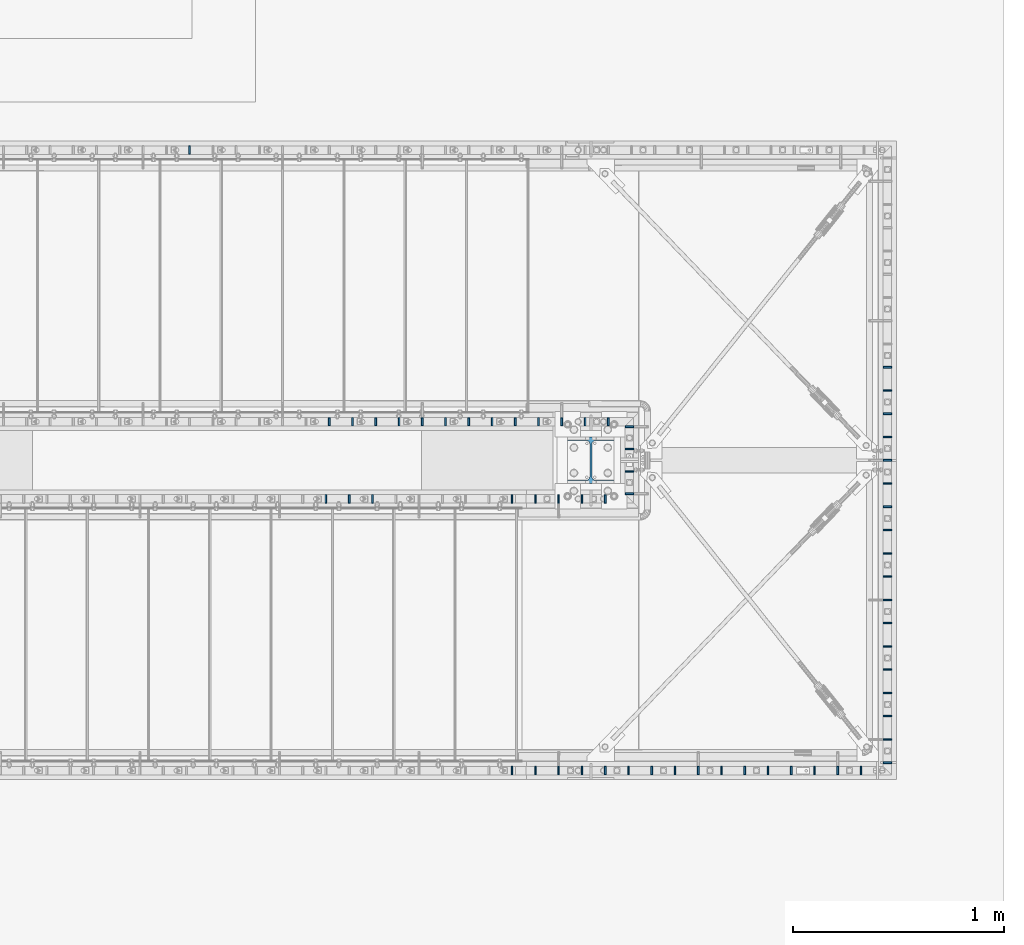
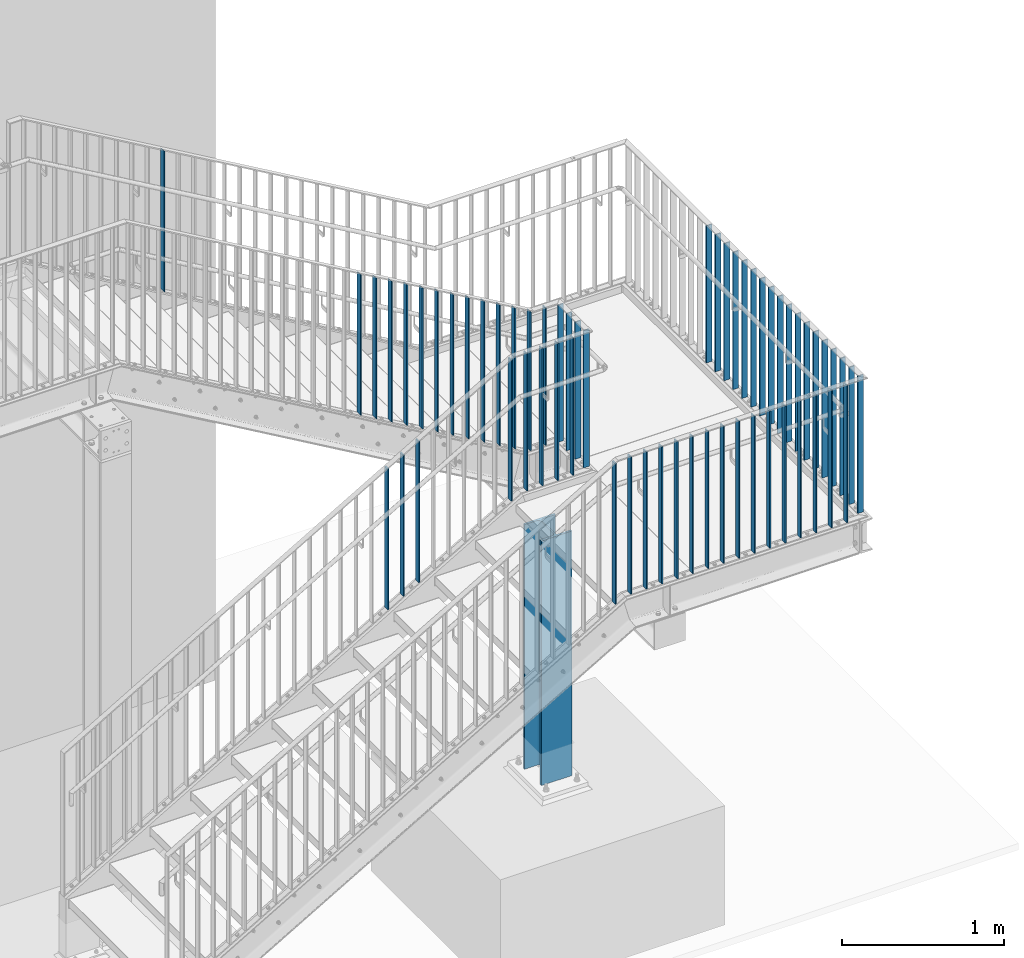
# One storey, part 3 of 145: 61 columns.
"""IFC2X3 building model written with IfcOpenShell, lengths in millimetres."""

from ifc_helpers import new_model, entity, si_unit, converted_unit, frame, origin, origin_with_axes, origin_2d, place, context, project, spatial, rectangle, i_section, extrude, clip, halfspace, material, element, save


model = new_model("IFC2X3")

# Units and contexts
model_context = context("Model", 3, precision=1e-09, world=origin_with_axes())
ifc_project = project(units=[si_unit("LENGTHUNIT", "METRE", prefix="MILLI"), si_unit("AREAUNIT", "SQUARE_METRE"), si_unit("VOLUMEUNIT", "CUBIC_METRE"), converted_unit("PLANEANGLEUNIT", "DEGREE", entity("IfcPlaneAngleMeasure", 0.01745329), si_unit("PLANEANGLEUNIT", "RADIAN"), dimensions=[0, 0, 0, 0, 0, 0, 0])], contexts=[model_context])

# Site, building, storey
site_placement = place(None, origin_with_axes())
site = spatial("IfcSite", under=ifc_project, at=site_placement, Name="BZ1 Grund- und Mittelschule 85716 Unterschlei?heim", CompositionType="ELEMENT")
building_placement = place(site_placement, origin_with_axes())
building = spatial("IfcBuilding", under=site, at=building_placement, Name="Struktur 1", CompositionType="ELEMENT")
storey_placement = place(building_placement, origin_with_axes())
storey = spatial("IfcBuildingStorey", under=building, at=storey_placement, Name="Default Storey", CompositionType="ELEMENT", Elevation=0.0)

# Columns
ifc_material = material(Name="S235JR")
column_1_placement = place(None, frame((20293.141490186, -1512.502, 1621.636364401), z_axis=(0.0, 0.0, 1.0), x_axis=(-1.0, 0.0, 0.0)))
element("IfcColumn", 1, at=column_1_placement, inside=storey, material=ifc_material, Name="-", ObjectType="-", context=model_context, shape_type="SweptSolid", body=[
    extrude(rectangle(XDim=8.0, YDim=40.0, at=origin_2d()), origin(), (0.0, 0.0, 1.0), 1033.999999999),
])
for number, where, z_axis, x_axis in (
    (2, (21613.34472732, -1365.002, 1621.636364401), (0.0, 0.0, -1.0), (0.0, 1.0, 0.0)),
    (3, (21613.34472732, -1475.002, 1621.636364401), (0.0, 0.0, -1.0), (0.0, 1.0, 0.0)),
    (4, (21613.34472732, -1585.002, 1621.636364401), (0.0, 0.0, -1.0), (0.0, 1.0, 0.0)),
    (5, (21613.34472732, -1695.002, 1621.636364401), (0.0, 0.0, -1.0), (0.0, 1.0, 0.0)),
    (6, (21613.34472732, -1805.002, 1621.636364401), (0.0, 0.0, -1.0), (0.0, 1.0, 0.0)),
    (7, (21613.34472732, -1915.002, 1621.636364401), (0.0, 0.0, -1.0), (0.0, 1.0, 0.0)),
    (8, (21613.34472732, -2025.002, 1621.636364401), (0.0, 0.0, -1.0), (0.0, 1.0, 0.0)),
    (9, (21613.34472732, -2135.002, 1621.636364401), (0.0, 0.0, -1.0), (0.0, 1.0, 0.0)),
    (10, (20393.34472732, -1642.16866666, 1621.636364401), (0.0, 0.0, -1.0), (0.0, -1.0, 0.0)),
    (11, (20393.34472732, -1536.502, 1621.636364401), (0.0, 0.0, -1.0), (0.0, -1.0, 0.0)),
):
    element("IfcColumn", number, at=place(None, frame(where, z_axis=z_axis, x_axis=x_axis)), inside=storey, material=ifc_material, Name="-", ObjectType="-", context=model_context, shape_type="SweptSolid", body=[
        extrude(rectangle(XDim=8.0, YDim=40.0, at=origin_2d()), origin(), (0.0, 0.0, -1.0), 1033.999999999),
    ])
column_2_placement = place(None, frame((20393.34472732, -1853.502, 1621.636364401), z_axis=(0.0, 0.0, 1.0), x_axis=(0.0, 1.0, 0.0)))
element("IfcColumn", 12, at=column_2_placement, inside=storey, material=ifc_material, Name="-", ObjectType="-", context=model_context, shape_type="SweptSolid", body=[
    extrude(rectangle(XDim=8.0, YDim=40.0, at=origin_2d()), origin(), (0.0, 0.0, 1.0), 1033.999999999),
])
for number, where, z_axis, x_axis in (
    (13, (20393.34472732, -1747.83533334, 1621.636364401), (0.0, 0.0, -1.0), (0.0, -1.0, 0.0)),
    (14, (21613.34472732, -2245.002, 1621.636364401), (0.0, 0.0, -1.0), (0.0, 1.0, 0.0)),
    (15, (21613.34472732, -2355.002, 1621.636364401), (0.0, 0.0, -1.0), (0.0, 1.0, 0.0)),
    (16, (21613.34472732, -2465.002, 1621.636364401), (0.0, 0.0, -1.0), (0.0, 1.0, 0.0)),
    (17, (21613.34472732, -2575.002, 1621.636364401), (0.0, 0.0, -1.0), (0.0, 1.0, 0.0)),
    (18, (21613.34472732, -2685.002, 1621.636364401), (0.0, 0.0, -1.0), (0.0, 1.0, 0.0)),
    (19, (21613.34472732, -2795.002, 1621.636364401), (0.0, 0.0, -1.0), (0.0, 1.0, 0.0)),
    (20, (21613.34472732, -2905.002, 1621.636364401), (0.0, 0.0, -1.0), (0.0, 1.0, 0.0)),
    (21, (21613.34472732, -3015.002, 1621.636364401), (0.0, 0.0, -1.0), (0.0, 1.0, 0.0)),
    (22, (21613.34472732, -3125.002, 1621.636364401), (0.0, 0.0, -1.0), (0.0, 1.0, 0.0)),
    (23, (21378.545893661, -3162.502, 1621.636364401), (0.0, 0.0, -1.0), (1.0, 0.0, 0.0)),
    (24, (21488.545893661, -3162.502, 1621.636364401), (0.0, 0.0, -1.0), (1.0, 0.0, 0.0)),
    (25, (21613.34472732, -1255.002, 1621.636364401), (0.0, 0.0, -1.0), (0.0, 1.0, 0.0)),
):
    element("IfcColumn", number, at=place(None, frame(where, z_axis=z_axis, x_axis=x_axis)), inside=storey, material=ifc_material, Name="-", ObjectType="-", context=model_context, shape_type="SweptSolid", body=[
        extrude(rectangle(XDim=8.0, YDim=40.0, at=origin_2d()), origin(), (0.0, 0.0, -1.0), 1033.999999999),
    ])
column_3_placement = place(None, frame((19838.545893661, -3162.497893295, 1559.993000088), z_axis=(0.0, 0.0, -1.0), x_axis=(1.0, 0.0, 0.0)))
element("IfcColumn", 26, at=column_3_placement, inside=storey, material=ifc_material, Name="-", ObjectType="-", context=model_context, shape_type="Clipping", body=[
    clip(clip(extrude(rectangle(XDim=8.0, YDim=40.0, at=origin_2d()), origin(), (0.0, 0.0, -1.0), 1108.679153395), halfspace(frame((-15513.541197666, -3162.497893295, 8997.602153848), z_axis=(-0.502691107, 0.0, -0.864466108), x_axis=(0.0, 1.0, 0.0)), True)), halfspace(frame((-15974.821312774, -3162.497893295, 8204.349556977), z_axis=(0.502691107, 0.0, 0.864466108), x_axis=(0.0, -1.0, 0.0)), True)),
])
column_4_placement = place(None, frame((19838.545893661, -1877.497893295, 1559.993000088), z_axis=(0.0, 0.0, -1.0), x_axis=(-1.0, 0.0, 0.0)))
element("IfcColumn", 27, at=column_4_placement, inside=storey, material=ifc_material, Name="-", ObjectType="-", context=model_context, shape_type="Clipping", body=[
    clip(clip(extrude(rectangle(XDim=8.0, YDim=40.0, at=origin_2d()), origin(), (0.0, 0.0, -1.0), 1108.679153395), halfspace(frame((15513.541197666, 1877.497893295, 8997.602153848), z_axis=(0.502691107, 0.0, -0.864466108), x_axis=(0.0, -1.0, 0.0)), True)), halfspace(frame((15974.821312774, 1877.497893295, 8204.349556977), z_axis=(-0.502691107, 0.0, 0.864466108), x_axis=(0.0, 1.0, 0.0)), True)),
])
for number, where, z_axis, x_axis in (
    (28, (20168.545893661, -3162.502, 1621.636364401), (0.0, 0.0, -1.0), (1.0, 0.0, 0.0)),
    (29, (20168.545893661, -1877.502, 1621.636364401), (0.0, 0.0, -1.0), (-1.0, 0.0, 0.0)),
    (30, (20058.545893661, -3162.502, 1621.636364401), (0.0, 0.0, -1.0), (1.0, 0.0, 0.0)),
    (31, (20058.545893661, -1877.502, 1621.636364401), (0.0, 0.0, -1.0), (-1.0, 0.0, 0.0)),
    (32, (19948.545893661, -3162.502, 1621.636364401), (0.0, 0.0, -1.0), (1.0, 0.0, 0.0)),
    (33, (19948.545893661, -1877.502, 1621.636364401), (0.0, 0.0, -1.0), (-1.0, 0.0, 0.0)),
    (34, (20388.545893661, -3162.502, 1621.636364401), (0.0, 0.0, -1.0), (1.0, 0.0, 0.0)),
    (35, (20498.545893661, -3162.502, 1621.636364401), (0.0, 0.0, -1.0), (1.0, 0.0, 0.0)),
    (36, (20608.545893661, -3162.502, 1621.636364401), (0.0, 0.0, -1.0), (1.0, 0.0, 0.0)),
    (37, (20718.545893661, -3162.502, 1621.636364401), (0.0, 0.0, -1.0), (1.0, 0.0, 0.0)),
    (38, (20828.545893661, -3162.502, 1621.636364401), (0.0, 0.0, -1.0), (1.0, 0.0, 0.0)),
    (39, (20938.545893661, -3162.502, 1621.636364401), (0.0, 0.0, -1.0), (1.0, 0.0, 0.0)),
    (40, (21048.545893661, -3162.502, 1621.636364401), (0.0, 0.0, -1.0), (1.0, 0.0, 0.0)),
    (41, (21158.545893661, -3162.502, 1621.636364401), (0.0, 0.0, -1.0), (1.0, 0.0, 0.0)),
    (42, (21268.545893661, -3162.502, 1621.636364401), (0.0, 0.0, -1.0), (1.0, 0.0, 0.0)),
):
    element("IfcColumn", number, at=place(None, frame(where, z_axis=z_axis, x_axis=x_axis)), inside=storey, material=ifc_material, Name="-", ObjectType="-", context=model_context, shape_type="SweptSolid", body=[
        extrude(rectangle(XDim=8.0, YDim=40.0, at=origin_2d()), origin(), (0.0, 0.0, -1.0), 1033.999999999),
    ])
column_5_placement = place(None, frame((18313.141490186, -227.502, 2670.666980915), z_axis=(0.0, 0.0, -1.0), x_axis=(-1.0, 0.0, 0.0)))
element("IfcColumn", 43, at=column_5_placement, inside=storey, material=ifc_material, Name="-", ObjectType="-", context=model_context, shape_type="Clipping", body=[
    clip(clip(extrude(rectangle(XDim=8.0, YDim=40.0, at=origin_2d()), origin(), (0.0, 0.0, -1.0), 1108.679153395), halfspace(frame((12514.623942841, 227.502, -7300.907669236), z_axis=(-0.502691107, 0.0, -0.864466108), x_axis=(0.0, 1.0, 0.0)), True)), halfspace(frame((12053.343827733, 227.502, -8094.160266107), z_axis=(0.502691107, 0.0, 0.864466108), x_axis=(0.0, -1.0, 0.0)), True)),
])
column_6_placement = place(None, frame((19413.141490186, -1512.502, 2031.011808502), z_axis=(0.0, 0.0, -1.0), x_axis=(1.0, 0.0, 0.0)))
element("IfcColumn", 44, at=column_6_placement, inside=storey, material=ifc_material, Name="-", ObjectType="-", context=model_context, shape_type="Clipping", body=[
    clip(clip(extrude(rectangle(XDim=8.0, YDim=40.0, at=origin_2d()), origin(), (0.0, 0.0, -1.0), 1108.679153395), halfspace(frame((-13614.623942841, -1512.502, -7940.56284165), z_axis=(0.502691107, 0.0, -0.864466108), x_axis=(0.0, -1.0, 0.0)), True)), halfspace(frame((-13153.343827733, -1512.502, -8733.815438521), z_axis=(-0.502691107, 0.0, 0.864466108), x_axis=(0.0, 1.0, 0.0)), True)),
])
column_7_placement = place(None, frame((19963.141490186, -1512.502, 1711.184222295), z_axis=(0.0, 0.0, -1.0), x_axis=(1.0, 0.0, 0.0)))
element("IfcColumn", 45, at=column_7_placement, inside=storey, material=ifc_material, Name="-", ObjectType="-", context=model_context, shape_type="Clipping", body=[
    clip(clip(extrude(rectangle(XDim=8.0, YDim=40.0, at=origin_2d()), origin(), (0.0, 0.0, -1.0), 1108.679153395), halfspace(frame((-14164.623942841, -1512.502, -8260.390427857), z_axis=(0.502691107, 0.0, -0.864466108), x_axis=(0.0, -1.0, 0.0)), True)), halfspace(frame((-13703.343827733, -1512.502, -9053.643024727), z_axis=(-0.502691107, 0.0, 0.864466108), x_axis=(0.0, 1.0, 0.0)), True)),
])
column_8_placement = place(None, frame((20183.141490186, -1512.502, 1621.636364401), z_axis=(0.0, 0.0, -1.0), x_axis=(1.0, 0.0, 0.0)))
element("IfcColumn", 46, at=column_8_placement, inside=storey, material=ifc_material, Name="-", ObjectType="-", context=model_context, shape_type="Clipping", body=[
    clip(extrude(rectangle(XDim=8.0, YDim=40.0, at=origin_2d()), origin(), (0.0, 0.0, -1.0), 1070.295976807), halfspace(frame((-13923.343827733, -1512.502, -9143.190882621), z_axis=(-0.502691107, 0.0, 0.864466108), x_axis=(0.0, 1.0, 0.0)), True)),
])
column_9_placement = place(None, frame((20073.141490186, -1512.502, 1647.218705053), z_axis=(0.0, 0.0, -1.0), x_axis=(1.0, 0.0, 0.0)))
element("IfcColumn", 47, at=column_9_placement, inside=storey, material=ifc_material, Name="-", ObjectType="-", context=model_context, shape_type="Clipping", body=[
    clip(clip(extrude(rectangle(XDim=8.0, YDim=40.0, at=origin_2d()), origin(), (0.0, 0.0, -1.0), 1108.679153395), halfspace(frame((-14274.623942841, -1512.502, -8324.355945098), z_axis=(0.502691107, 0.0, -0.864466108), x_axis=(0.0, -1.0, 0.0)), True)), halfspace(frame((-13813.343827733, -1512.502, -9117.608541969), z_axis=(-0.502691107, 0.0, 0.864466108), x_axis=(0.0, 1.0, 0.0)), True)),
])
column_10_placement = place(None, frame((19853.141490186, -1512.502, 1775.149739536), z_axis=(0.0, 0.0, -1.0), x_axis=(1.0, 0.0, 0.0)))
element("IfcColumn", 48, at=column_10_placement, inside=storey, material=ifc_material, Name="-", ObjectType="-", context=model_context, shape_type="Clipping", body=[
    clip(clip(extrude(rectangle(XDim=8.0, YDim=40.0, at=origin_2d()), origin(), (0.0, 0.0, -1.0), 1108.679153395), halfspace(frame((-14054.623942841, -1512.502, -8196.424910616), z_axis=(0.502691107, 0.0, -0.864466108), x_axis=(0.0, -1.0, 0.0)), True)), halfspace(frame((-13593.343827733, -1512.502, -8989.677507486), z_axis=(-0.502691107, 0.0, 0.864466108), x_axis=(0.0, 1.0, 0.0)), True)),
])
column_11_placement = place(None, frame((19743.141490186, -1512.502, 1839.115256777), z_axis=(0.0, 0.0, -1.0), x_axis=(1.0, 0.0, 0.0)))
element("IfcColumn", 49, at=column_11_placement, inside=storey, material=ifc_material, Name="-", ObjectType="-", context=model_context, shape_type="Clipping", body=[
    clip(clip(extrude(rectangle(XDim=8.0, YDim=40.0, at=origin_2d()), origin(), (0.0, 0.0, -1.0), 1108.679153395), halfspace(frame((-13944.623942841, -1512.502, -8132.459393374), z_axis=(0.502691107, 0.0, -0.864466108), x_axis=(0.0, -1.0, 0.0)), True)), halfspace(frame((-13483.343827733, -1512.502, -8925.711990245), z_axis=(-0.502691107, 0.0, 0.864466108), x_axis=(0.0, 1.0, 0.0)), True)),
])
column_12_placement = place(None, frame((19633.141490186, -1512.502, 1903.080774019), z_axis=(0.0, 0.0, -1.0), x_axis=(1.0, 0.0, 0.0)))
element("IfcColumn", 50, at=column_12_placement, inside=storey, material=ifc_material, Name="-", ObjectType="-", context=model_context, shape_type="Clipping", body=[
    clip(clip(extrude(rectangle(XDim=8.0, YDim=40.0, at=origin_2d()), origin(), (0.0, 0.0, -1.0), 1108.679153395), halfspace(frame((-13834.623942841, -1512.502, -8068.493876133), z_axis=(0.502691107, 0.0, -0.864466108), x_axis=(0.0, -1.0, 0.0)), True)), halfspace(frame((-13373.343827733, -1512.502, -8861.746473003), z_axis=(-0.502691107, 0.0, 0.864466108), x_axis=(0.0, 1.0, 0.0)), True)),
])
column_13_placement = place(None, frame((19523.141490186, -1512.502, 1967.04629126), z_axis=(0.0, 0.0, -1.0), x_axis=(1.0, 0.0, 0.0)))
element("IfcColumn", 51, at=column_13_placement, inside=storey, material=ifc_material, Name="-", ObjectType="-", context=model_context, shape_type="Clipping", body=[
    clip(clip(extrude(rectangle(XDim=8.0, YDim=40.0, at=origin_2d()), origin(), (0.0, 0.0, -1.0), 1108.679153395), halfspace(frame((-13724.623942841, -1512.502, -8004.528358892), z_axis=(0.502691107, 0.0, -0.864466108), x_axis=(0.0, -1.0, 0.0)), True)), halfspace(frame((-13263.343827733, -1512.502, -8797.780955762), z_axis=(-0.502691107, 0.0, 0.864466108), x_axis=(0.0, 1.0, 0.0)), True)),
])
column_14_placement = place(None, frame((19303.141490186, -1512.502, 2094.977325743), z_axis=(0.0, 0.0, -1.0), x_axis=(1.0, 0.0, 0.0)))
element("IfcColumn", 52, at=column_14_placement, inside=storey, material=ifc_material, Name="-", ObjectType="-", context=model_context, shape_type="Clipping", body=[
    clip(clip(extrude(rectangle(XDim=8.0, YDim=40.0, at=origin_2d()), origin(), (0.0, 0.0, -1.0), 1108.679153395), halfspace(frame((-13504.623942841, -1512.502, -7876.597324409), z_axis=(0.502691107, 0.0, -0.864466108), x_axis=(0.0, -1.0, 0.0)), True)), halfspace(frame((-13043.343827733, -1512.502, -8669.849921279), z_axis=(-0.502691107, 0.0, 0.864466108), x_axis=(0.0, 1.0, 0.0)), True)),
])
column_15_placement = place(None, frame((19193.141490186, -1512.502, 2158.942842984), z_axis=(0.0, 0.0, -1.0), x_axis=(1.0, 0.0, 0.0)))
element("IfcColumn", 53, at=column_15_placement, inside=storey, material=ifc_material, Name="-", ObjectType="-", context=model_context, shape_type="Clipping", body=[
    clip(clip(extrude(rectangle(XDim=8.0, YDim=40.0, at=origin_2d()), origin(), (0.0, 0.0, -1.0), 1108.679153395), halfspace(frame((-13394.623942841, -1512.502, -7812.631807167), z_axis=(0.502691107, 0.0, -0.864466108), x_axis=(0.0, -1.0, 0.0)), True)), halfspace(frame((-12933.343827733, -1512.502, -8605.884404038), z_axis=(-0.502691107, 0.0, 0.864466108), x_axis=(0.0, 1.0, 0.0)), True)),
])
column_16_placement = place(None, frame((19083.141490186, -1512.502, 2222.908360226), z_axis=(0.0, 0.0, -1.0), x_axis=(1.0, 0.0, 0.0)))
element("IfcColumn", 54, at=column_16_placement, inside=storey, material=ifc_material, Name="-", ObjectType="-", context=model_context, shape_type="Clipping", body=[
    clip(clip(extrude(rectangle(XDim=8.0, YDim=40.0, at=origin_2d()), origin(), (0.0, 0.0, -1.0), 1108.679153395), halfspace(frame((-13284.623942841, -1512.502, -7748.666289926), z_axis=(0.502691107, 0.0, -0.864466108), x_axis=(0.0, -1.0, 0.0)), True)), halfspace(frame((-12823.343827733, -1512.502, -8541.918886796), z_axis=(-0.502691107, 0.0, 0.864466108), x_axis=(0.0, 1.0, 0.0)), True)),
])
column_17_placement = place(None, frame((18973.141490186, -1512.502, 2286.873877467), z_axis=(0.0, 0.0, -1.0), x_axis=(1.0, 0.0, 0.0)))
element("IfcColumn", 55, at=column_17_placement, inside=storey, material=ifc_material, Name="-", ObjectType="-", context=model_context, shape_type="Clipping", body=[
    clip(clip(extrude(rectangle(XDim=8.0, YDim=40.0, at=origin_2d()), origin(), (0.0, 0.0, -1.0), 1108.679153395), halfspace(frame((-13174.623942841, -1512.502, -7684.700772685), z_axis=(0.502691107, 0.0, -0.864466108), x_axis=(0.0, -1.0, 0.0)), True)), halfspace(frame((-12713.343827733, -1512.502, -8477.953369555), z_axis=(-0.502691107, 0.0, 0.864466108), x_axis=(0.0, 1.0, 0.0)), True)),
])
column_18_placement = place(None, frame((20210.84472732, -1695.002, -710.0), z_axis=(0.0, 0.0, -1.0), x_axis=(1.0, 0.0, 0.0)))
element("IfcColumn", 56, at=column_18_placement, inside=storey, material=ifc_material, Name="-", ObjectType="-", context=model_context, shape_type="SweptSolid", body=[
    extrude(i_section(OverallWidth=220.0, OverallDepth=220.0, WebThickness=9.5, FlangeThickness=16.0, FilletRadius=18.0, at=origin_2d()), origin(), (0.0, 0.0, -1.0), 1843.636364),
])
column_19_placement = place(None, frame((19068.545893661, -1877.502, 1112.234379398), z_axis=(0.0, 0.0, -1.0), x_axis=(-1.0, 0.0, 0.0)))
element("IfcColumn", 57, at=column_19_placement, inside=storey, material=ifc_material, Name="-", ObjectType="-", context=model_context, shape_type="Clipping", body=[
    clip(clip(extrude(rectangle(XDim=8.0, YDim=40.0, at=origin_2d()), origin(), (0.0, 0.0, -1.0), 1108.679153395), halfspace(frame((14743.541197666, 1877.502, 8549.843533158), z_axis=(0.502691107, 0.0, -0.864466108), x_axis=(0.0, -1.0, 0.0)), True)), halfspace(frame((15204.821312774, 1877.502, 7756.590936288), z_axis=(-0.502691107, 0.0, 0.864466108), x_axis=(0.0, 1.0, 0.0)), True)),
])
column_20_placement = place(None, frame((19178.545893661, -1877.502, 1176.19989664), z_axis=(0.0, 0.0, -1.0), x_axis=(-1.0, 0.0, 0.0)))
element("IfcColumn", 58, at=column_20_placement, inside=storey, material=ifc_material, Name="-", ObjectType="-", context=model_context, shape_type="Clipping", body=[
    clip(clip(extrude(rectangle(XDim=8.0, YDim=40.0, at=origin_2d()), origin(), (0.0, 0.0, -1.0), 1108.679153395), halfspace(frame((14853.541197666, 1877.502, 8613.8090504), z_axis=(0.502691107, 0.0, -0.864466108), x_axis=(0.0, -1.0, 0.0)), True)), halfspace(frame((15314.821312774, 1877.502, 7820.556453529), z_axis=(-0.502691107, 0.0, 0.864466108), x_axis=(0.0, 1.0, 0.0)), True)),
])
for number, where, z_axis, x_axis in (
    (59, (20278.545893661, -3162.502, 1621.636364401), (0.0, 0.0, -1.0), (1.0, 0.0, 0.0)),
    (60, (20278.545893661, -1877.502, 1621.636364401), (0.0, 0.0, -1.0), (-1.0, 0.0, 0.0)),
):
    element("IfcColumn", number, at=place(None, frame(where, z_axis=z_axis, x_axis=x_axis)), inside=storey, material=ifc_material, Name="-", ObjectType="-", context=model_context, shape_type="SweptSolid", body=[
        extrude(rectangle(XDim=8.0, YDim=40.0, at=origin_2d()), origin(), (0.0, 0.0, -1.0), 1033.999999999),
    ])
column_21_placement = place(None, frame((18958.545893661, -1877.502, 1048.268862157), z_axis=(0.0, 0.0, -1.0), x_axis=(-1.0, 0.0, 0.0)))
element("IfcColumn", 61, at=column_21_placement, inside=storey, material=ifc_material, Name="-", ObjectType="-", context=model_context, shape_type="Clipping", body=[
    clip(clip(extrude(rectangle(XDim=8.0, YDim=40.0, at=origin_2d()), origin(), (0.0, 0.0, -1.0), 1108.679153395), halfspace(frame((14633.541197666, 1877.502, 8485.878015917), z_axis=(0.502691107, 0.0, -0.864466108), x_axis=(0.0, -1.0, 0.0)), True)), halfspace(frame((15094.821312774, 1877.502, 7692.625419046), z_axis=(-0.502691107, 0.0, 0.864466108), x_axis=(0.0, 1.0, 0.0)), True)),
])

save(model, "model.ifc")
